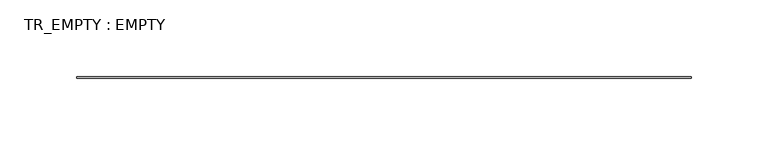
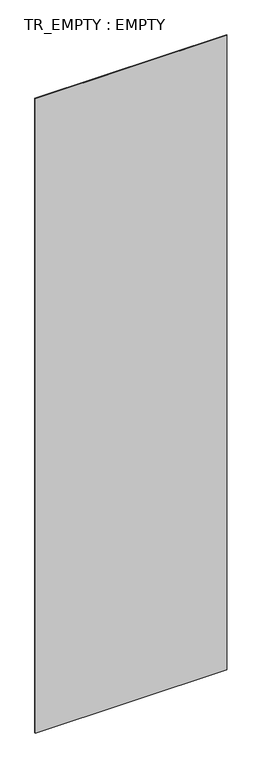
"""IFC4 building model written with IfcOpenShell, lengths in millimetres: plate geometry, TR_EMPTY : EMPTY."""

import ifcopenshell
import ifcopenshell.guid

model = None  # the IFC model being written
_history = None  # IfcOwnerHistory: only IFC2X3 demands one
_inside = {}  # id of a spatial element -> (the spatial element, [elements in it])
_under = {}  # id of a project, library or spatial element -> (it, [spatial elements below it])
_declared = {}  # id of a project -> (the project, [libraries it declares])
_typed = {}  # id of a type object -> (the type object, [elements of that type])
_made_of = {}  # id of a material, layer set ... -> (it, [elements and type objects made of it])


def new_model(schema):
    """Start an empty IFC model of exactly this schema.

    Asked for "IFC4X3", IfcOpenShell would pick the latest addendum, in which some entities
    have other attributes; the version numbers below select the first issue.
    IFC2X3 requires an IfcOwnerHistory on every rooted entity: one is made here for all.
    """
    global model, _history
    if schema == "IFC4X3":
        model = ifcopenshell.file(schema_version=(4, 3, 0, 0))
    else:
        model = ifcopenshell.file(schema=schema)
    _inside.clear()
    _under.clear()
    _declared.clear()
    _typed.clear()
    _made_of.clear()
    _history = None
    if model.schema == "IFC2X3":
        org = make("IfcOrganization", Name="unknown")
        user = make(
            "IfcPersonAndOrganization",
            ThePerson=make("IfcPerson", FamilyName="unknown"),
            TheOrganization=org,
        )
        app = make(
            "IfcApplication",
            ApplicationDeveloper=org,
            Version="unknown",
            ApplicationFullName="unknown",
            ApplicationIdentifier="unknown",
        )
        _history = make(
            "IfcOwnerHistory",
            OwningUser=user,
            OwningApplication=app,
            ChangeAction="ADDED",
            CreationDate=0,
        )
    return model


def make(cls, **values):
    """One entity of the class cls with the attributes given. An attribute that is None is left unset."""
    return model.create_entity(
        cls, **{name: value for name, value in values.items() if value is not None}
    )


def rooted(cls, **values):
    """An entity with a GlobalId (a new one), such as an element, a storey or a relation."""
    return make(cls, GlobalId=ifcopenshell.guid.new(), OwnerHistory=_history, **values)


def si_unit(unit_type, name, prefix=None):
    """IfcSIUnit, for example si_unit("LENGTHUNIT", "METRE", prefix="MILLI")."""
    return make("IfcSIUnit", UnitType=unit_type, Prefix=prefix, Name=name)


def assignment(units):
    """IfcUnitAssignment: the units of a project."""
    return None if units is None else make("IfcUnitAssignment", Units=units)


def point(xyz):
    """IfcCartesianPoint."""
    return None if xyz is None else make("IfcCartesianPoint", Coordinates=xyz)


def direction(xyz):
    """IfcDirection."""
    return None if xyz is None else make("IfcDirection", DirectionRatios=xyz)


def frame(location, z_axis=None, x_axis=None):
    """IfcAxis2Placement3D, a coordinate frame: its origin and axes. An axis left out is left unset."""
    return make(
        "IfcAxis2Placement3D",
        Location=point(location),
        Axis=direction(z_axis),
        RefDirection=direction(x_axis),
    )


def origin():
    """The frame at (0, 0, 0) with its axes left unset."""
    return frame((0.0, 0.0, 0.0))


def place(relative_to, where):
    """IfcLocalPlacement: puts the frame where relative to a parent placement (None: the world)."""
    return make(
        "IfcLocalPlacement", PlacementRelTo=relative_to, RelativePlacement=where
    )


def context(
    kind, dimensions, precision=None, world=None, true_north=None, identifier=None
):
    """IfcGeometricRepresentationContext, for example the 3D "Model" context."""
    return make(
        "IfcGeometricRepresentationContext",
        ContextIdentifier=identifier,
        ContextType=kind,
        CoordinateSpaceDimension=dimensions,
        Precision=precision,
        WorldCoordinateSystem=world,
        TrueNorth=true_north,
    )


def project(units=None, contexts=None):
    """IfcProject with its units and contexts."""
    return rooted(
        "IfcProject",
        Name="project",
        RepresentationContexts=contexts,
        UnitsInContext=assignment(units),
    )


def spatial(cls, under=None, at=None, **own):
    """A site, building, storey or space (cls), placed at a placement, below another one or the project."""
    s = rooted(cls, ObjectPlacement=at, **own)
    if under is not None:
        _under.setdefault(under.id(), (under, []))[1].append(s)
    return s


def polyline(points):
    """IfcPolyline through the points."""
    return make("IfcPolyline", Points=[point(p) for p in points])


def outline(outer, holes=None, kind="AREA"):
    """IfcArbitraryClosedProfileDef: a profile drawn as a closed curve; with holes, ...WithVoids."""
    if holes is None:
        return make("IfcArbitraryClosedProfileDef", ProfileType=kind, OuterCurve=outer)
    return make(
        "IfcArbitraryProfileDefWithVoids",
        ProfileType=kind,
        OuterCurve=outer,
        InnerCurves=holes,
    )


def extrude(swept, where, along, depth):
    """IfcExtrudedAreaSolid: the profile swept, set in the frame where, extruded along a direction by depth."""
    return make(
        "IfcExtrudedAreaSolid",
        SweptArea=swept,
        Position=where,
        ExtrudedDirection=direction(along),
        Depth=depth,
    )


def shape(context_of_items, identifier, shape_type, items):
    """IfcShapeRepresentation: the items that make up one representation, for example the "Body"."""
    return make(
        "IfcShapeRepresentation",
        ContextOfItems=context_of_items,
        RepresentationIdentifier=identifier,
        RepresentationType=shape_type,
        Items=items,
    )


def source(mapping_origin, context_of_items, identifier, shape_type, items):
    """IfcRepresentationMap: a shape defined once, which mapped items show again and again."""
    return make(
        "IfcRepresentationMap",
        MappingOrigin=mapping_origin,
        MappedRepresentation=shape(context_of_items, identifier, shape_type, items),
    )


def transform(
    local_origin,
    x_axis=None,
    y_axis=None,
    z_axis=None,
    scale=None,
    scale2=None,
    scale3=None,
    uniform=True,
):
    """IfcCartesianTransformationOperator3D, or its non-uniform kind. x_axis, y_axis, z_axis: its Axis1, 2, 3."""
    if uniform:
        return make(
            "IfcCartesianTransformationOperator3D",
            Axis1=direction(x_axis),
            Axis2=direction(y_axis),
            LocalOrigin=point(local_origin),
            Scale=scale,
            Axis3=direction(z_axis),
        )
    return make(
        "IfcCartesianTransformationOperator3DnonUniform",
        Axis1=direction(x_axis),
        Axis2=direction(y_axis),
        LocalOrigin=point(local_origin),
        Scale=scale,
        Axis3=direction(z_axis),
        Scale2=scale2,
        Scale3=scale3,
    )


def mapped(mapping_source, mapping_target):
    """IfcMappedItem: shows the shape of a source again, moved by a transform."""
    return make(
        "IfcMappedItem", MappingSource=mapping_source, MappingTarget=mapping_target
    )


def made_of(thing, what):
    """Note that an element or type object is made of a material, layer set ...; save() writes the relation."""
    if what is not None:
        _made_of.setdefault(what.id(), (what, []))[1].append(thing)
    return thing


def element(
    cls,
    number,
    at=None,
    inside=None,
    cuts=None,
    type_object=None,
    material=None,
    context=None,
    identifier="Body",
    shape_type=None,
    held_by="IfcProductDefinitionShape",
    body=None,
    shapes=None,
    **own,
):
    """One element of the class cls, such as IfcWall. Its Tag is "e" and its number.

    at: its placement. inside: the storey or other place that contains it. cuts: it is an
    opening in that element (IfcRelVoidsElement). A single representation is given by context,
    identifier, shape_type and body (its items); several are given by shapes. held_by: the class
    of the entity that holds the representations. save() writes the other relations.
    """
    e = rooted(cls, Tag="e%d" % number, ObjectPlacement=at, **own)
    if body is not None:
        shapes = [shape(context, identifier, shape_type, body)]
    if shapes is not None:
        e.Representation = make(held_by, Representations=shapes)
    if inside is not None:
        _inside.setdefault(inside.id(), (inside, []))[1].append(e)
    if cuts is not None:
        rooted(
            "IfcRelVoidsElement", RelatingBuildingElement=cuts, RelatedOpeningElement=e
        )
    if type_object is not None:
        _typed.setdefault(type_object.id(), (type_object, []))[1].append(e)
    return made_of(e, material)


def aggregate(whole, parts):
    """IfcRelAggregates: a whole, such as a stair, and the parts it consists of."""
    return rooted("IfcRelAggregates", RelatingObject=whole, RelatedObjects=parts)


def save(model, path):
    """Write the relations noted so far, then the file.

    IfcRelAggregates (storeys below a building ...), IfcRelContainedInSpatialStructure (elements
    in a storey), IfcRelDefinesByType, IfcRelAssociatesMaterial and IfcRelDeclares: one each for
    every whole, place, type object, material and project.
    """
    for whole, parts in _under.values():
        aggregate(whole, parts)
    for where, things in _inside.values():
        rooted(
            "IfcRelContainedInSpatialStructure",
            RelatedElements=things,
            RelatingStructure=where,
        )
    for kind, things in _typed.values():
        rooted("IfcRelDefinesByType", RelatedObjects=things, RelatingType=kind)
    for what, things in _made_of.values():
        rooted("IfcRelAssociatesMaterial", RelatedObjects=things, RelatingMaterial=what)
    for by, libraries in _declared.values():
        rooted("IfcRelDeclares", RelatingContext=by, RelatedDefinitions=libraries)
    model.write(path)


def tr_empty_empty_b148ba64(model_context):
    return source(origin(), model_context, "Body", "SweptSolid", [
        extrude(outline(polyline([(199.9999998, -31.0), (-199.9999998, -31.0), (-199.9999998, -30.0), (199.9999998, -30.0), (199.9999998, -31.0)])), frame((0.0, 0.0, 50.0), z_axis=(0.0, 0.0, 1.0), x_axis=(1.0, 0.0, 0.0)), (0.0, 0.0, 1.0), 1400.0),
    ])


if __name__ == "__main__":
    model = new_model("IFC4")
    model_context = context("Model", 3, world=origin())
    ifc_project = project(units=[si_unit("LENGTHUNIT", "METRE", prefix="MILLI")], contexts=[model_context])
    site = spatial("IfcSite", under=ifc_project)
    building = spatial("IfcBuilding", under=site)
    placement = place(None, origin())
    tr_empty_empty_shape = tr_empty_empty_b148ba64(model_context)
    element("IfcPlate", 1, ObjectType="TR_EMPTY : EMPTY", at=placement, inside=building, context=model_context, shape_type="MappedRepresentation", body=[
        mapped(tr_empty_empty_shape, transform((0.0, 0.0, 0.0), x_axis=(1.0, 0.0, 0.0), y_axis=(0.0, 1.0, 0.0), z_axis=(0.0, 0.0, 1.0))),
    ])
    save(model, "model.ifc")
